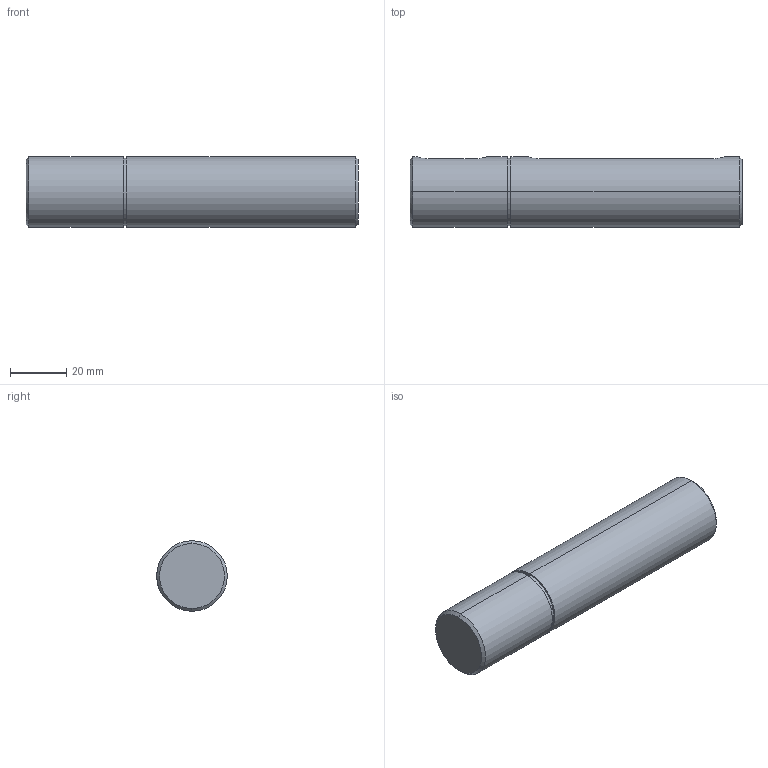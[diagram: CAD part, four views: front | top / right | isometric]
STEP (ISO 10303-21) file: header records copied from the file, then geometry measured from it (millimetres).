
FILE_DESCRIPTION (( 'STEP AP203' ), '1' );
FILE_NAME ('084.813.005.STEP', '2013-01-29T13:21:07', ( 'Alusic' ), ( 'Alusic' ), 'SwSTEP 2.0', 'SolidWorks 2011', '' );
FILE_SCHEMA (( 'CONFIG_CONTROL_DESIGN' ));
Length unit declared in the file: millimetre
Products named in the file (1): 084.813.005
Bounding box: 117.8 x 25 x 25 mm (x, y, z)
Volume: 54229.2 mm3; surface area: 11315.2 mm2
Topology: 1 solids, 1 shells, 28 faces, 60 edges, 37 vertices
Faces by surface type: cylinder 12, plane 10, cone 6
Entity records: 947 total; most frequent: CARTESIAN_POINT 256, DIRECTION 136, ORIENTED_EDGE 116, EDGE_CURVE 58, AXIS2_PLACEMENT_3D 53, VERTEX_POINT 37, EDGE_LOOP 33, VECTOR 30
